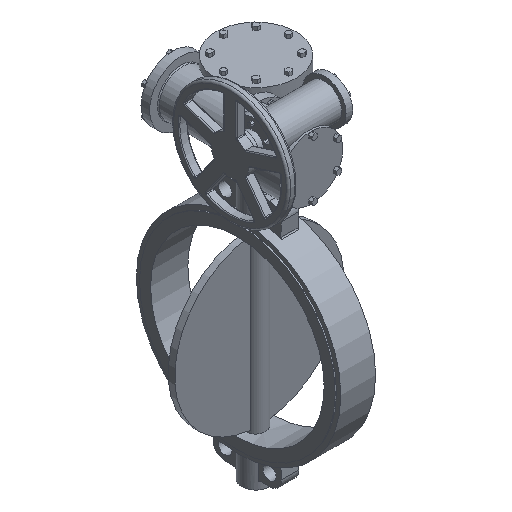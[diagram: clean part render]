
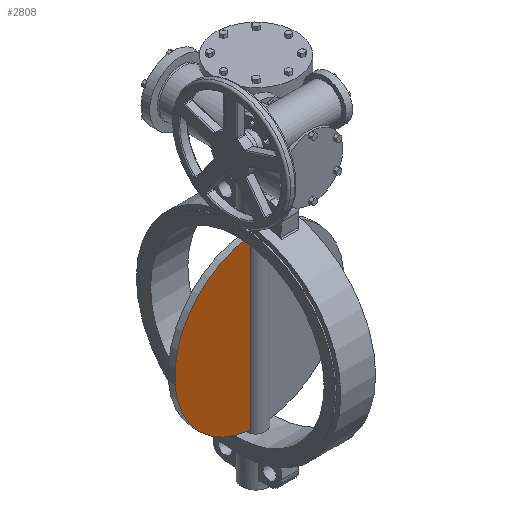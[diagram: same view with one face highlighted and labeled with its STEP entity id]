
A CAD part, isometric view. The second image highlights one B-rep face of the part: STEP entity #2808.
In plain terms, the highlighted planar face has unit normal (0, -1, 0).
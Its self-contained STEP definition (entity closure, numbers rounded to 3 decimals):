
#2808=ADVANCED_FACE('',(#7589),#7591,.T.);
#7589=FACE_BOUND('',#7590,.T.);
#7590=EDGE_LOOP('',(#11164,#11165));
#7591=PLANE('',#7592);
#7592=AXIS2_PLACEMENT_3D('',#7593,#7594,#7595);
#7593=CARTESIAN_POINT('',(0.,-7.5,0.));
#7594=DIRECTION('',(0.,-1.,0.));
#7595=DIRECTION('',(0.,0.,1.));
#11164=ORIENTED_EDGE('',*,*,#12991,.T.);
#11165=ORIENTED_EDGE('',*,*,#13035,.T.);
#12991=EDGE_CURVE('',#14779,#14776,#14780,.F.);
#13035=EDGE_CURVE('',#14776,#14779,#14863,.T.);
#14776=VERTEX_POINT('',#21086);
#14779=VERTEX_POINT('',#21130);
#14780=LINE('',#21131,#21132);
#14863=CIRCLE('',#21346,194.805);
#21086=CARTESIAN_POINT('',(-21.213,-7.5,193.647));
#21130=CARTESIAN_POINT('',(-21.213,-7.5,-193.647));
#21131=CARTESIAN_POINT('',(-21.213,-7.5,193.647));
#21132=VECTOR('',#21133,1.);
#21133=DIRECTION('',(0.,0.,-1.));
#21346=AXIS2_PLACEMENT_3D('',#21347,#21348,#21349);
#21347=CARTESIAN_POINT('',(0.,-7.5,0.));
#21348=DIRECTION('',(0.,-1.,0.));
#21349=DIRECTION('',(-0.109,0.,0.994));
